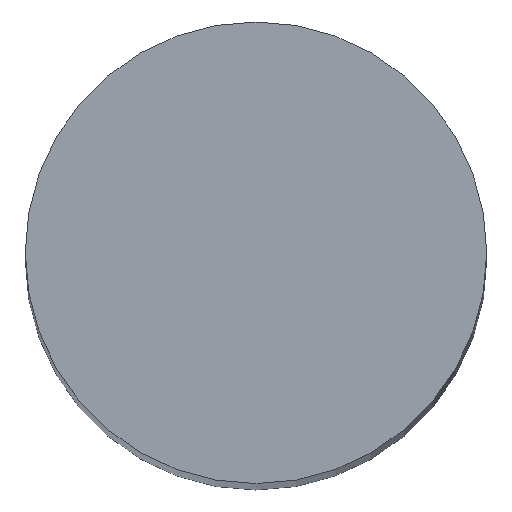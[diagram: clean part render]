
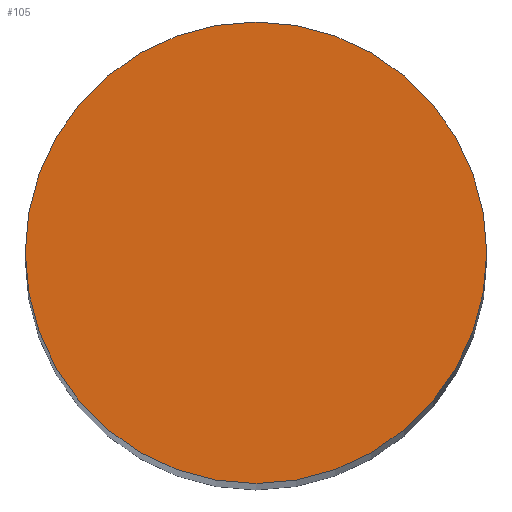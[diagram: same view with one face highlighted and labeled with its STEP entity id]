
A CAD part, top view. The second image highlights one B-rep face of the part: STEP entity #105.
In plain terms, the highlighted planar face has unit normal (0, 0, 1).
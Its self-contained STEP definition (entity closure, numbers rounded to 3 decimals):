
#21 = EDGE_CURVE('',#22,#22,#24,.T.);
#22 = VERTEX_POINT('',#23);
#23 = CARTESIAN_POINT('',(5.,0.,80.));
#24 = SURFACE_CURVE('',#25,(#30,#42),.PCURVE_S1.);
#25 = CIRCLE('',#26,5.);
#26 = AXIS2_PLACEMENT_3D('',#27,#28,#29);
#27 = CARTESIAN_POINT('',(0.,0.,80.));
#28 = DIRECTION('',(0.,0.,1.));
#29 = DIRECTION('',(1.,0.,0.));
#30 = PCURVE('',#31,#36);
#31 = CYLINDRICAL_SURFACE('',#32,5.);
#32 = AXIS2_PLACEMENT_3D('',#33,#34,#35);
#33 = CARTESIAN_POINT('',(0.,0.,0.));
#34 = DIRECTION('',(0.,0.,1.));
#35 = DIRECTION('',(1.,0.,0.));
#36 = DEFINITIONAL_REPRESENTATION('',(#37),#41);
#37 = LINE('',#38,#39);
#38 = CARTESIAN_POINT('',(0.,80.));
#39 = VECTOR('',#40,1.);
#40 = DIRECTION('',(1.,0.));
#41 = ( GEOMETRIC_REPRESENTATION_CONTEXT(2) 
PARAMETRIC_REPRESENTATION_CONTEXT() REPRESENTATION_CONTEXT('2D SPACE',''
  ) );
#42 = PCURVE('',#43,#48);
#43 = PLANE('',#44);
#44 = AXIS2_PLACEMENT_3D('',#45,#46,#47);
#45 = CARTESIAN_POINT('',(0.,0.,80.));
#46 = DIRECTION('',(0.,0.,1.));
#47 = DIRECTION('',(1.,0.,0.));
#48 = DEFINITIONAL_REPRESENTATION('',(#49),#53);
#49 = CIRCLE('',#50,5.);
#50 = AXIS2_PLACEMENT_2D('',#51,#52);
#51 = CARTESIAN_POINT('',(0.,0.));
#52 = DIRECTION('',(1.,0.));
#53 = ( GEOMETRIC_REPRESENTATION_CONTEXT(2) 
PARAMETRIC_REPRESENTATION_CONTEXT() REPRESENTATION_CONTEXT('2D SPACE',''
  ) );
#105 = ADVANCED_FACE('',(#106),#43,.T.);
#106 = FACE_BOUND('',#107,.T.);
#107 = EDGE_LOOP('',(#108));
#108 = ORIENTED_EDGE('',*,*,#21,.T.);
